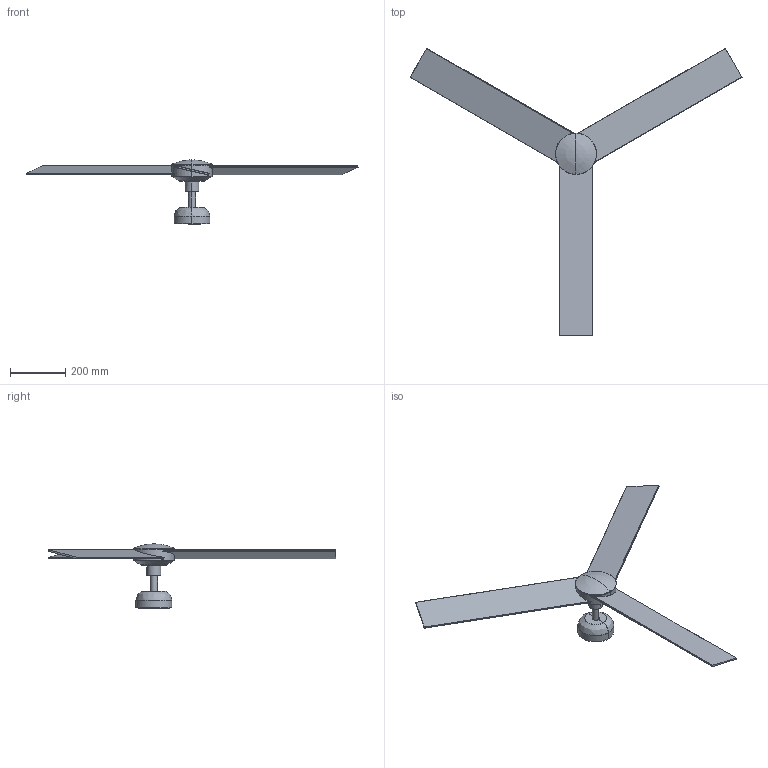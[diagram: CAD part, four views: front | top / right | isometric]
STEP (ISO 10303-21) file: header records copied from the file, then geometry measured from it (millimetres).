
FILE_DESCRIPTION(/* description */ (''),/* implementation_level */ '2;1');
FILE_NAME(/* name */ '34298.step',/* time_stamp */ '2024-04-17T12:11:28+02:00',/* author */ ('RenataManzini'),/* organization */ (''),/* preprocessor_version */ 'ST-DEVELOPER v20',/* originating_system */ 'AutoCAD Mechanical',/* authorisation */ '');
FILE_SCHEMA (('AUTOMOTIVE_DESIGN { 1 0 10303 214 3 1 1 }'));
Length unit declared in the file: millimetre
Products named in the file (3): Product; pieza_34295 - Cruiser-489706-_3D_; pieza_34295 - Cruiser without light-1060_dwg_ABW2C6_____-489647-_3D_
Assembly tree (2 placements, depth 3):
  Product
    pieza_34295 - Cruiser-489706-_3D_
      pieza_34295 - Cruiser without light-1060_dwg_ABW2C6_____-489647-_3D_
Bounding box: 1204.49 x 1043.19 x 233.02 mm (x, y, z)
Volume: 2084612.9 mm3; surface area: 692492.4 mm2
Topology: 5 solids, 6 shells, 243 faces, 680 edges, 435 vertices
Faces by surface type: plane 125, cylinder 89, torus 19, bspline 6, cone 4
Entity records: 9616 total; most frequent: CARTESIAN_POINT 3244, ORIENTED_EDGE 1338, DIRECTION 1297, EDGE_CURVE 675, AXIS2_PLACEMENT_3D 470, VERTEX_POINT 430, LINE 357, VECTOR 357
